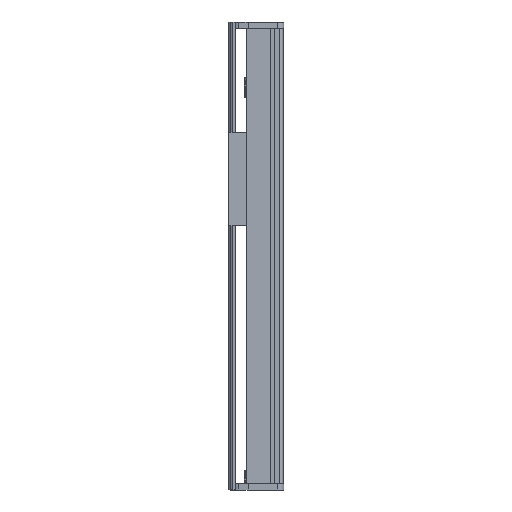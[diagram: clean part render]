
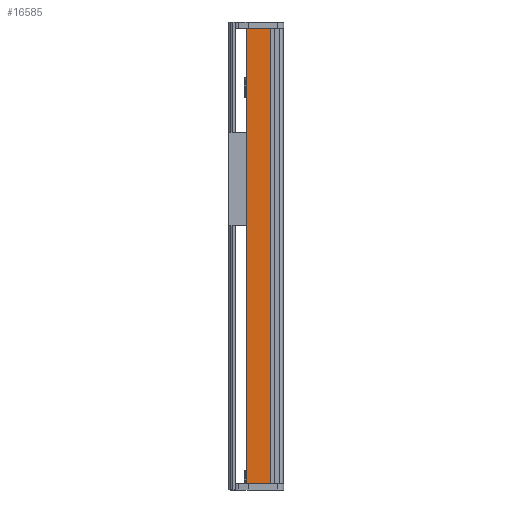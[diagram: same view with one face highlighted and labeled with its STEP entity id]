
A CAD part, left-side view. The second image highlights one B-rep face of the part: STEP entity #16585.
In plain terms, the highlighted planar face has unit normal (-1, 0, 0).
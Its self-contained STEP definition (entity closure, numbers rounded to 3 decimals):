
#2645 = LINE ( 'NONE', #59440, #69934 ) ;
#3404 = VERTEX_POINT ( 'NONE', #46935 ) ;
#4001 = CARTESIAN_POINT ( 'NONE',  ( -96.777, -13.077, 0. ) ) ;
#4695 = ORIENTED_EDGE ( 'NONE', *, *, #68685, .T. ) ;
#6588 = LINE ( 'NONE', #10583, #79327 ) ;
#10583 = CARTESIAN_POINT ( 'NONE',  ( -96.777, 25.223, 730. ) ) ;
#11430 = PLANE ( 'NONE',  #51733 ) ;
#16585 = ADVANCED_FACE ( 'NONE', ( #40091 ), #11430, .F. ) ;
#19409 = DIRECTION ( 'NONE',  ( 0., 0., -1. ) ) ;
#21733 = EDGE_CURVE ( 'NONE', #84883, #113799, #2645, .T. ) ;
#23726 = CARTESIAN_POINT ( 'NONE',  ( -96.777, 0., 0. ) ) ;
#29076 = DIRECTION ( 'NONE',  ( 0., 1., 0. ) ) ;
#33914 = LINE ( 'NONE', #23726, #54448 ) ;
#34122 = ORIENTED_EDGE ( 'NONE', *, *, #74286, .F. ) ;
#34910 = VECTOR ( 'NONE', #76137, 1000. ) ;
#40091 = FACE_OUTER_BOUND ( 'NONE', #99001, .T. ) ;
#45164 = CARTESIAN_POINT ( 'NONE',  ( -96.777, -13.077, 730. ) ) ;
#46260 = ORIENTED_EDGE ( 'NONE', *, *, #21733, .T. ) ;
#46935 = CARTESIAN_POINT ( 'NONE',  ( -96.777, 25.223, 0. ) ) ;
#49388 = CARTESIAN_POINT ( 'NONE',  ( -96.777, 25.223, 730. ) ) ;
#51733 = AXIS2_PLACEMENT_3D ( 'NONE', #72776, #81598, #29076 ) ;
#54448 = VECTOR ( 'NONE', #76260, 1000. ) ;
#59440 = CARTESIAN_POINT ( 'NONE',  ( -96.777, -13.077, 730. ) ) ;
#68685 = EDGE_CURVE ( 'NONE', #3404, #84883, #33914, .T. ) ;
#69934 = VECTOR ( 'NONE', #103153, 1000. ) ;
#72776 = CARTESIAN_POINT ( 'NONE',  ( -96.777, 0., 730. ) ) ;
#73123 = ORIENTED_EDGE ( 'NONE', *, *, #88770, .T. ) ;
#74286 = EDGE_CURVE ( 'NONE', #83594, #113799, #104894, .T. ) ;
#76137 = DIRECTION ( 'NONE',  ( 0., -1., 0. ) ) ;
#76260 = DIRECTION ( 'NONE',  ( 0., -1., 0. ) ) ;
#79327 = VECTOR ( 'NONE', #19409, 1000. ) ;
#81598 = DIRECTION ( 'NONE',  ( 1., 0., 0. ) ) ;
#83594 = VERTEX_POINT ( 'NONE', #49388 ) ;
#84883 = VERTEX_POINT ( 'NONE', #4001 ) ;
#88770 = EDGE_CURVE ( 'NONE', #83594, #3404, #6588, .T. ) ;
#99001 = EDGE_LOOP ( 'NONE', ( #4695, #46260, #34122, #73123 ) ) ;
#102251 = CARTESIAN_POINT ( 'NONE',  ( -96.777, 0., 730. ) ) ;
#103153 = DIRECTION ( 'NONE',  ( 0., 0., 1. ) ) ;
#104894 = LINE ( 'NONE', #102251, #34910 ) ;
#113799 = VERTEX_POINT ( 'NONE', #45164 ) ;
